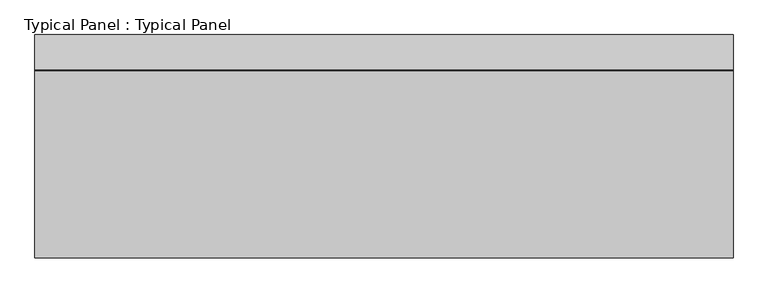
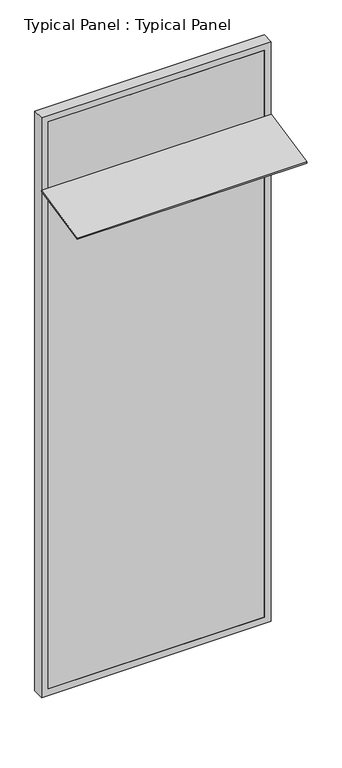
"""IFC4 building model written with IfcOpenShell, lengths in millimetres: plate geometry, Typical Panel : Typical Panel."""

from ifc_helpers import new_model, si_unit, frame, origin, place, context, project, spatial, polyline, outline, extrude, source, transform, mapped, element, save


def typical_panel_typical_panel_f19e842e(model_context):
    return source(origin(), model_context, "Body", "SweptSolid", [
        extrude(outline(polyline([(0.0, -410.0), (0.0, 0.0), (1500.0, 0.0), (1500.0, -410.0), (0.0, -410.0)])), frame((750.0, -403.9613994, 3404.9747308), z_axis=(0.0, -0.2079116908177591, 0.9781476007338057), x_axis=(-1.0, 0.0, 0.0)), (0.0, 0.0, 1.0), 10.0),
        extrude(outline(polyline([(0.0, -750.0), (0.0, 750.0), (4000.0, 750.0), (4000.0, -750.0), (0.0, -750.0)]), holes=[polyline([(45.0, 705.0), (45.0, -705.0), (3955.0, -705.0), (3955.0, 705.0), (45.0, 705.0)])]), frame((0.0, -1.5797986, 0.0), z_axis=(0.0, 1.0, 0.0), x_axis=(0.0, 0.0, 1.0)), (0.0, 0.0, 1.0), 75.0),
        extrude(outline(polyline([(705.0, -1.5797986), (-705.0, -1.5797986), (-705.0, 13.4202014), (705.0, 13.4202014), (705.0, -1.5797986)])), frame((0.0, 0.0, 45.0), z_axis=(0.0, 0.0, 1.0), x_axis=(1.0, 0.0, 0.0)), (0.0, 0.0, 1.0), 3910.0),
    ])


if __name__ == "__main__":
    model = new_model("IFC4")
    model_context = context("Model", 3, world=origin())
    ifc_project = project(units=[si_unit("LENGTHUNIT", "METRE", prefix="MILLI")], contexts=[model_context])
    site = spatial("IfcSite", under=ifc_project)
    building = spatial("IfcBuilding", under=site)
    placement = place(None, origin())
    typical_panel_typical_panel_shape = typical_panel_typical_panel_f19e842e(model_context)
    element("IfcPlate", 1, ObjectType="Typical Panel : Typical Panel", at=placement, inside=building, context=model_context, shape_type="MappedRepresentation", body=[
        mapped(typical_panel_typical_panel_shape, transform((0.0, 0.0, 0.0), x_axis=(1.0, 0.0, 0.0), y_axis=(0.0, 1.0, 0.0), z_axis=(0.0, 0.0, 1.0))),
    ])
    save(model, "model.ifc")
